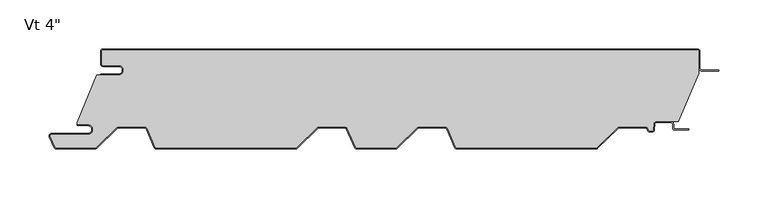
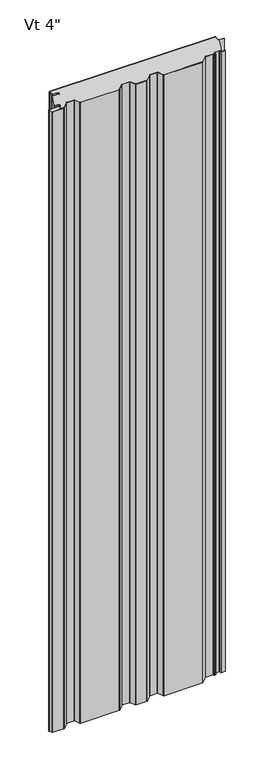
"""IFC4 building model written with IfcOpenShell, lengths in millimetres: plate geometry."""

from ifc_helpers import new_model, si_unit, point, frame_2d, origin, origin_with_axes, place, context, project, spatial, polyline, circle_curve, trimmed, segment, composite_curve, outline, extrude, source, transform, mapped, element, save


def plate_906cce98(model_context):
    return source(origin(), model_context, "Body", "SweptSolid", [
        extrude(outline(composite_curve([segment(trimmed(circle_curve(frame_2d((-285.74375, -21.4324412)), 4.96875), [point((-285.74375, -26.4011912))], [point((-285.74375, -16.4636912))], True, "CARTESIAN"), True, "CONTINUOUS"), segment(polyline([(-285.74375, -16.4636912), (-301.61875, -16.4636912)]), True, "CONTINUOUS"), segment(trimmed(circle_curve(frame_2d((-301.61875, -15.0824412)), 1.38125), [point((-301.61875, -16.4636912))], [point((-303.0, -15.0824412))], False, "CARTESIAN"), True, "CONTINUOUS"), segment(polyline([(-303.0, -15.0824412), (-303.0, -2.3824412)]), True, "CONTINUOUS"), segment(trimmed(circle_curve(frame_2d((-301.61875, -2.3824412)), 1.38125), [point((-303.0, -2.3824412))], [point((-301.61875, -1.0011912))], False, "CARTESIAN"), True, "CONTINUOUS"), segment(polyline([(-301.61875, -1.0011912), (301.63125, -1.0011912)]), True, "CONTINUOUS"), segment(trimmed(circle_curve(frame_2d((301.63125, -2.3824412)), 1.38125), [point((301.63125, -1.0011912))], [point((303.0125, -2.3824412))], False, "CARTESIAN"), True, "CONTINUOUS"), segment(polyline([(303.0125, -2.3824412), (303.0125, -24.8719682), (282.1955434, -73.6136912), (259.7683457, -73.6136912)]), True, "CONTINUOUS"), segment(trimmed(circle_curve(frame_2d((259.7683457, -76.2011912)), 2.5875), [point((259.7683457, -73.6136912))], [point((257.1843918, -76.0657719))], True, "CARTESIAN"), True, "CONTINUOUS"), segment(polyline([(257.1843918, -76.0657719), (256.8823155, -81.8297302)]), True, "CONTINUOUS"), segment(trimmed(circle_curve(frame_2d((255.5029585, -81.7574412)), 1.38125), [point((256.8823155, -81.8297302))], [point((255.5029585, -83.1386912))], False, "CARTESIAN"), True, "CONTINUOUS"), segment(polyline([(255.5029585, -83.1386912), (253.1754519, -83.1386912)]), True, "CONTINUOUS"), segment(trimmed(circle_curve(frame_2d((253.1754519, -81.7574412)), 1.38125), [point((253.1754519, -83.1386912))], [point((251.9124516, -82.3166208))], False, "CARTESIAN"), True, "CONTINUOUS"), segment(polyline([(251.9124516, -82.3166208), (251.1640306, -80.6261871)]), True, "CONTINUOUS"), segment(trimmed(circle_curve(frame_2d((248.7980481, -81.6737)), 2.5875), [point((251.1640306, -80.6261871))], [point((248.7980481, -79.0862))], True, "CARTESIAN"), True, "CONTINUOUS"), segment(polyline([(248.7980481, -79.0862), (222.2742003, -79.0862)]), True, "CONTINUOUS"), segment(trimmed(circle_curve(frame_2d((222.2742003, -81.6737)), 2.5875), [point((222.2742003, -79.0862))], [point((220.4745496, -79.8145567))], True, "CARTESIAN"), True, "CONTINUOUS"), segment(polyline([(220.4745496, -79.8145567), (199.4036462, -100.2111912)]), True, "CONTINUOUS"), segment(trimmed(circle_curve(frame_2d((198.4429631, -99.21875)), 1.38125), [point((199.4036462, -100.2111912))], [point((198.4429631, -100.6))], False, "CARTESIAN"), True, "CONTINUOUS"), segment(polyline([(198.4429631, -100.6), (57.7062557, -100.6)]), True, "CONTINUOUS"), segment(trimmed(circle_curve(frame_2d((57.7062557, -99.21875)), 1.38125), [point((57.7062557, -100.6))], [point((56.4432554, -99.7779296))], False, "CARTESIAN"), True, "CONTINUOUS"), segment(polyline([(56.4432554, -99.7779296), (47.9640306, -80.6261871)]), True, "CONTINUOUS"), segment(trimmed(circle_curve(frame_2d((45.5980481, -81.6737)), 2.5875), [point((47.9640306, -80.6261871))], [point((45.5980481, -79.0862))], True, "CARTESIAN"), True, "CONTINUOUS"), segment(polyline([(45.5980481, -79.0862), (19.0742003, -79.0862)]), True, "CONTINUOUS"), segment(trimmed(circle_curve(frame_2d((19.0742003, -81.6737)), 2.5875), [point((19.0742003, -79.0862))], [point((17.2745496, -79.8145567))], True, "CARTESIAN"), True, "CONTINUOUS"), segment(polyline([(17.2745496, -79.8145567), (-3.7963538, -100.2111912)]), True, "CONTINUOUS"), segment(trimmed(circle_curve(frame_2d((-4.7570369, -99.21875)), 1.38125), [point((-3.7963538, -100.2111912))], [point((-4.7570369, -100.6))], False, "CARTESIAN"), True, "CONTINUOUS"), segment(polyline([(-4.7570369, -100.6), (-43.8937443, -100.6)]), True, "CONTINUOUS"), segment(trimmed(circle_curve(frame_2d((-43.8937443, -99.21875)), 1.38125), [point((-43.8937443, -100.6))], [point((-45.1567446, -99.7779296))], False, "CARTESIAN"), True, "CONTINUOUS"), segment(polyline([(-45.1567446, -99.7779296), (-53.6359694, -80.6261871)]), True, "CONTINUOUS"), segment(trimmed(circle_curve(frame_2d((-56.0019519, -81.6737)), 2.5875), [point((-53.6359694, -80.6261871))], [point((-56.0019519, -79.0862))], True, "CARTESIAN"), True, "CONTINUOUS"), segment(polyline([(-56.0019519, -79.0862), (-82.5257997, -79.0862)]), True, "CONTINUOUS"), segment(trimmed(circle_curve(frame_2d((-82.5257997, -81.6737)), 2.5875), [point((-82.5257997, -79.0862))], [point((-84.3254504, -79.8145567))], True, "CARTESIAN"), True, "CONTINUOUS"), segment(polyline([(-84.3254504, -79.8145567), (-105.3963538, -100.2111912)]), True, "CONTINUOUS"), segment(trimmed(circle_curve(frame_2d((-106.3570369, -99.21875)), 1.38125), [point((-105.3963538, -100.2111912))], [point((-106.3570369, -100.6))], False, "CARTESIAN"), True, "CONTINUOUS"), segment(polyline([(-106.3570369, -100.6), (-247.0937443, -100.6)]), True, "CONTINUOUS"), segment(trimmed(circle_curve(frame_2d((-247.0937443, -99.21875)), 1.38125), [point((-247.0937443, -100.6))], [point((-248.3567446, -99.7779296))], False, "CARTESIAN"), True, "CONTINUOUS"), segment(polyline([(-248.3567446, -99.7779296), (-256.8359694, -80.6261871)]), True, "CONTINUOUS"), segment(trimmed(circle_curve(frame_2d((-259.2019519, -81.6737)), 2.5875), [point((-256.8359694, -80.6261871))], [point((-259.2019519, -79.0862))], True, "CARTESIAN"), True, "CONTINUOUS"), segment(polyline([(-259.2019519, -79.0862), (-285.7257997, -79.0862)]), True, "CONTINUOUS"), segment(trimmed(circle_curve(frame_2d((-285.7257997, -81.6737)), 2.5875), [point((-285.7257997, -79.0862))], [point((-287.5254504, -79.8145567))], True, "CARTESIAN"), True, "CONTINUOUS"), segment(polyline([(-287.5254504, -79.8145567), (-308.3876931, -100.0092077)]), True, "CONTINUOUS"), segment(trimmed(circle_curve(frame_2d((-309.8474446, -98.5012)), 2.0988), [point((-308.3876931, -100.0092077))], [point((-309.8474446, -100.6))], False, "CARTESIAN"), True, "CONTINUOUS"), segment(polyline([(-309.8474446, -100.6), (-348.6937443, -100.6)]), True, "CONTINUOUS"), segment(trimmed(circle_curve(frame_2d((-348.6937443, -99.21875)), 1.38125), [point((-348.6937443, -100.6))], [point((-349.9567446, -99.7779296))], False, "CARTESIAN"), True, "CONTINUOUS"), segment(polyline([(-349.9567446, -99.7779296), (-354.8761552, -88.6666208)]), True, "CONTINUOUS"), segment(trimmed(circle_curve(frame_2d((-353.6131549, -88.1074412)), 1.38125), [point((-354.8761552, -88.6666208))], [point((-353.6131549, -86.7261912))], False, "CARTESIAN"), True, "CONTINUOUS"), segment(polyline([(-353.6131549, -86.7261912), (-316.7, -86.7261912)]), True, "CONTINUOUS"), segment(trimmed(circle_curve(frame_2d((-316.7, -81.7574412)), 4.96875), [point((-316.7, -86.7261912))], [point((-316.7, -76.7886912))], True, "CARTESIAN"), True, "CONTINUOUS"), segment(polyline([(-316.7, -76.7886912), (-327.8125, -76.7886912), (-327.8125, -74.633822), (-307.9914112, -26.4011912), (-285.74375, -26.4011912)]), True, "CONTINUOUS")], self_intersect=False)), origin_with_axes(), (0.0, 0.0, 1.0), 2400.0),
        extrude(outline(composite_curve([segment(polyline([(-304.0, -25.4), (-285.74375, -25.4)]), True, "CONTINUOUS"), segment(trimmed(circle_curve(frame_2d((-285.74375, -21.43125)), 3.96875), [point((-285.74375, -25.4))], [point((-285.74375, -17.4625))], True, "CARTESIAN"), True, "CONTINUOUS"), segment(polyline([(-285.74375, -17.4625), (-301.61875, -17.4625)]), True, "CONTINUOUS"), segment(trimmed(circle_curve(frame_2d((-301.61875, -15.08125)), 2.38125), [point((-301.61875, -17.4625))], [point((-304.0, -15.08125))], False, "CARTESIAN"), True, "CONTINUOUS"), segment(polyline([(-304.0, -15.08125), (-304.0, -2.38125)]), True, "CONTINUOUS"), segment(trimmed(circle_curve(frame_2d((-301.61875, -2.38125)), 2.38125), [point((-304.0, -2.38125))], [point((-301.61875, 0.0))], False, "CARTESIAN"), True, "CONTINUOUS"), segment(polyline([(-301.61875, 0.0), (301.63125, 0.0)]), True, "CONTINUOUS"), segment(trimmed(circle_curve(frame_2d((301.63125, -2.38125)), 2.38125), [point((301.63125, 0.0))], [point((304.0125, -2.38125))], False, "CARTESIAN"), True, "CONTINUOUS"), segment(polyline([(304.0125, -2.38125), (304.0125, -19.446875)]), True, "CONTINUOUS"), segment(trimmed(circle_curve(frame_2d((305.6, -19.446875)), 1.5875), [point((304.0125, -19.446875))], [point((305.6, -21.034375))], True, "CARTESIAN"), True, "CONTINUOUS"), segment(polyline([(305.6, -21.034375), (323.0625, -21.034375), (323.0625, -22.034375), (305.6, -22.034375)]), True, "CONTINUOUS"), segment(trimmed(circle_curve(frame_2d((305.6, -19.446875)), 2.5875), [point((305.6, -22.034375))], [point((303.0125, -19.446875))], False, "CARTESIAN"), True, "CONTINUOUS"), segment(polyline([(303.0125, -19.446875), (303.0125, -2.38125)]), True, "CONTINUOUS"), segment(trimmed(circle_curve(frame_2d((301.63125, -2.38125)), 1.38125), [point((303.0125, -2.38125))], [point((301.63125, -1.0))], True, "CARTESIAN"), True, "CONTINUOUS"), segment(polyline([(301.63125, -1.0), (-301.61875, -1.0)]), True, "CONTINUOUS"), segment(trimmed(circle_curve(frame_2d((-301.61875, -2.38125)), 1.38125), [point((-301.61875, -1.0))], [point((-303.0, -2.38125))], True, "CARTESIAN"), True, "CONTINUOUS"), segment(polyline([(-303.0, -2.38125), (-303.0, -15.08125)]), True, "CONTINUOUS"), segment(trimmed(circle_curve(frame_2d((-301.61875, -15.08125)), 1.38125), [point((-303.0, -15.08125))], [point((-301.61875, -16.4625))], True, "CARTESIAN"), True, "CONTINUOUS"), segment(polyline([(-301.61875, -16.4625), (-285.74375, -16.4625)]), True, "CONTINUOUS"), segment(trimmed(circle_curve(frame_2d((-285.74375, -21.43125)), 4.96875), [point((-285.74375, -16.4625))], [point((-285.74375, -26.4))], False, "CARTESIAN"), True, "CONTINUOUS"), segment(polyline([(-285.74375, -26.4), (-304.0, -26.4), (-304.0, -25.4)]), True, "CONTINUOUS")], self_intersect=False)), origin_with_axes(), (0.0, 0.0, 1.0), 2400.0),
        extrude(outline(composite_curve([segment(trimmed(circle_curve(frame_2d((-316.7, -81.7574412)), 3.96875), [point((-316.7, -85.7261912))], [point((-316.7, -77.7886912))], True, "CARTESIAN"), True, "CONTINUOUS"), segment(polyline([(-316.7, -77.7886912), (-327.8125, -77.7886912), (-327.8125, -76.7886912), (-316.7, -76.7886912)]), True, "CONTINUOUS"), segment(trimmed(circle_curve(frame_2d((-316.7, -81.7574412)), 4.96875), [point((-316.7, -76.7886912))], [point((-316.7, -86.7261912))], False, "CARTESIAN"), True, "CONTINUOUS"), segment(polyline([(-316.7, -86.7261912), (-353.6131549, -86.7261912)]), True, "CONTINUOUS"), segment(trimmed(circle_curve(frame_2d((-353.6131549, -88.1074412)), 1.38125), [point((-353.6131549, -86.7261912))], [point((-354.8761552, -88.6666208))], True, "CARTESIAN"), True, "CONTINUOUS"), segment(polyline([(-354.8761552, -88.6666208), (-349.9567446, -99.7779296)]), True, "CONTINUOUS"), segment(trimmed(circle_curve(frame_2d((-348.6937443, -99.21875)), 1.38125), [point((-349.9567446, -99.7779296))], [point((-348.6937443, -100.6))], True, "CARTESIAN"), True, "CONTINUOUS"), segment(polyline([(-348.6937443, -100.6), (-309.8474446, -100.6)]), True, "CONTINUOUS"), segment(trimmed(circle_curve(frame_2d((-309.8474446, -98.5012)), 2.0988), [point((-309.8474446, -100.6))], [point((-308.3876931, -100.0092077))], True, "CARTESIAN"), True, "CONTINUOUS"), segment(polyline([(-308.3876931, -100.0092077), (-287.5254504, -79.8145567)]), True, "CONTINUOUS"), segment(trimmed(circle_curve(frame_2d((-285.7257997, -81.6737)), 2.5875), [point((-287.5254504, -79.8145567))], [point((-285.7257997, -79.0862))], False, "CARTESIAN"), True, "CONTINUOUS"), segment(polyline([(-285.7257997, -79.0862), (-259.2019519, -79.0862)]), True, "CONTINUOUS"), segment(trimmed(circle_curve(frame_2d((-259.2019519, -81.6737)), 2.5875), [point((-259.2019519, -79.0862))], [point((-256.8359694, -80.6261871))], False, "CARTESIAN"), True, "CONTINUOUS"), segment(polyline([(-256.8359694, -80.6261871), (-248.3567446, -99.7779296)]), True, "CONTINUOUS"), segment(trimmed(circle_curve(frame_2d((-247.0937443, -99.21875)), 1.38125), [point((-248.3567446, -99.7779296))], [point((-247.0937443, -100.6))], True, "CARTESIAN"), True, "CONTINUOUS"), segment(polyline([(-247.0937443, -100.6), (-106.3570369, -100.6)]), True, "CONTINUOUS"), segment(trimmed(circle_curve(frame_2d((-106.3570369, -99.21875)), 1.38125), [point((-106.3570369, -100.6))], [point((-105.3963538, -100.2111912))], True, "CARTESIAN"), True, "CONTINUOUS"), segment(polyline([(-105.3963538, -100.2111912), (-84.3254504, -79.8145567)]), True, "CONTINUOUS"), segment(trimmed(circle_curve(frame_2d((-82.5257997, -81.6737)), 2.5875), [point((-84.3254504, -79.8145567))], [point((-82.5257997, -79.0862))], False, "CARTESIAN"), True, "CONTINUOUS"), segment(polyline([(-82.5257997, -79.0862), (-56.0019519, -79.0862)]), True, "CONTINUOUS"), segment(trimmed(circle_curve(frame_2d((-56.0019519, -81.6737)), 2.5875), [point((-56.0019519, -79.0862))], [point((-53.6359694, -80.6261871))], False, "CARTESIAN"), True, "CONTINUOUS"), segment(polyline([(-53.6359694, -80.6261871), (-45.1567446, -99.7779296)]), True, "CONTINUOUS"), segment(trimmed(circle_curve(frame_2d((-43.8937443, -99.21875)), 1.38125), [point((-45.1567446, -99.7779296))], [point((-43.8937443, -100.6))], True, "CARTESIAN"), True, "CONTINUOUS"), segment(polyline([(-43.8937443, -100.6), (-4.7570369, -100.6)]), True, "CONTINUOUS"), segment(trimmed(circle_curve(frame_2d((-4.7570369, -99.21875)), 1.38125), [point((-4.7570369, -100.6))], [point((-3.7963538, -100.2111912))], True, "CARTESIAN"), True, "CONTINUOUS"), segment(polyline([(-3.7963538, -100.2111912), (17.2745496, -79.8145567)]), True, "CONTINUOUS"), segment(trimmed(circle_curve(frame_2d((19.0742003, -81.6737)), 2.5875), [point((17.2745496, -79.8145567))], [point((19.0742003, -79.0862))], False, "CARTESIAN"), True, "CONTINUOUS"), segment(polyline([(19.0742003, -79.0862), (45.5980481, -79.0862)]), True, "CONTINUOUS"), segment(trimmed(circle_curve(frame_2d((45.5980481, -81.6737)), 2.5875), [point((45.5980481, -79.0862))], [point((47.9640306, -80.6261871))], False, "CARTESIAN"), True, "CONTINUOUS"), segment(polyline([(47.9640306, -80.6261871), (56.4432554, -99.7779296)]), True, "CONTINUOUS"), segment(trimmed(circle_curve(frame_2d((57.7062557, -99.21875)), 1.38125), [point((56.4432554, -99.7779296))], [point((57.7062557, -100.6))], True, "CARTESIAN"), True, "CONTINUOUS"), segment(polyline([(57.7062557, -100.6), (198.4429631, -100.6)]), True, "CONTINUOUS"), segment(trimmed(circle_curve(frame_2d((198.4429631, -99.21875)), 1.38125), [point((198.4429631, -100.6))], [point((199.4036462, -100.2111912))], True, "CARTESIAN"), True, "CONTINUOUS"), segment(polyline([(199.4036462, -100.2111912), (220.4745496, -79.8145567)]), True, "CONTINUOUS"), segment(trimmed(circle_curve(frame_2d((222.2742003, -81.6737)), 2.5875), [point((220.4745496, -79.8145567))], [point((222.2742003, -79.0862))], False, "CARTESIAN"), True, "CONTINUOUS"), segment(polyline([(222.2742003, -79.0862), (248.7980481, -79.0862)]), True, "CONTINUOUS"), segment(trimmed(circle_curve(frame_2d((248.7980481, -81.6737)), 2.5875), [point((248.7980481, -79.0862))], [point((251.1640306, -80.6261871))], False, "CARTESIAN"), True, "CONTINUOUS"), segment(polyline([(251.1640306, -80.6261871), (251.9124516, -82.3166208)]), True, "CONTINUOUS"), segment(trimmed(circle_curve(frame_2d((253.1754519, -81.7574412)), 1.38125), [point((251.9124516, -82.3166208))], [point((253.1754519, -83.1386912))], True, "CARTESIAN"), True, "CONTINUOUS"), segment(polyline([(253.1754519, -83.1386912), (255.5029585, -83.1386912)]), True, "CONTINUOUS"), segment(trimmed(circle_curve(frame_2d((255.5029585, -81.7574412)), 1.38125), [point((255.5029585, -83.1386912))], [point((256.8823155, -81.8297302))], True, "CARTESIAN"), True, "CONTINUOUS"), segment(polyline([(256.8823155, -81.8297302), (257.1843918, -76.0657719)]), True, "CONTINUOUS"), segment(trimmed(circle_curve(frame_2d((259.7683457, -76.2011912)), 2.5875), [point((257.1843918, -76.0657719))], [point((259.7683457, -73.6136912))], False, "CARTESIAN"), True, "CONTINUOUS"), segment(polyline([(259.7683457, -73.6136912), (274.64375, -73.6136912)]), True, "CONTINUOUS"), segment(trimmed(circle_curve(frame_2d((274.64375, -76.2011912)), 2.5875), [point((274.64375, -73.6136912))], [point((277.23125, -76.2011912))], False, "CARTESIAN"), True, "CONTINUOUS"), segment(polyline([(277.23125, -76.2011912), (277.23125, -79.7730662)]), True, "CONTINUOUS"), segment(trimmed(circle_curve(frame_2d((278.6125, -79.7730662)), 1.38125), [point((277.23125, -79.7730662))], [point((278.6125, -81.1543162))], True, "CARTESIAN"), True, "CONTINUOUS"), segment(polyline([(278.6125, -81.1543162), (292.9, -81.1543162), (292.9, -82.1543162), (278.6125, -82.1543162)]), True, "CONTINUOUS"), segment(trimmed(circle_curve(frame_2d((278.6125, -79.7730662)), 2.38125), [point((278.6125, -82.1543162))], [point((276.23125, -79.7730662))], False, "CARTESIAN"), True, "CONTINUOUS"), segment(polyline([(276.23125, -79.7730662), (276.23125, -76.2011912)]), True, "CONTINUOUS"), segment(trimmed(circle_curve(frame_2d((274.64375, -76.2011912)), 1.5875), [point((276.23125, -76.2011912))], [point((274.64375, -74.6136912))], True, "CARTESIAN"), True, "CONTINUOUS"), segment(polyline([(274.64375, -74.6136912), (259.7683457, -74.6136912)]), True, "CONTINUOUS"), segment(trimmed(circle_curve(frame_2d((259.7683457, -76.2011912)), 1.5875), [point((259.7683457, -74.6136912))], [point((258.1830213, -76.1181078))], True, "CARTESIAN"), True, "CONTINUOUS"), segment(polyline([(258.1830213, -76.1181078), (257.8809451, -81.8820662)]), True, "CONTINUOUS"), segment(trimmed(circle_curve(frame_2d((255.5029585, -81.7574412)), 2.38125), [point((257.8809451, -81.8820662))], [point((255.5029585, -84.1386912))], False, "CARTESIAN"), True, "CONTINUOUS"), segment(polyline([(255.5029585, -84.1386912), (253.1754519, -84.1386912)]), True, "CONTINUOUS"), segment(trimmed(circle_curve(frame_2d((253.1754519, -81.7574412)), 2.38125), [point((253.1754519, -84.1386912))], [point((250.9980623, -82.7214567))], False, "CARTESIAN"), True, "CONTINUOUS"), segment(polyline([(250.9980623, -82.7214567), (250.2496412, -81.031023)]), True, "CONTINUOUS"), segment(trimmed(circle_curve(frame_2d((248.7980481, -81.6737)), 1.5875), [point((250.2496412, -81.031023))], [point((248.7980481, -80.0862))], True, "CARTESIAN"), True, "CONTINUOUS"), segment(polyline([(248.7980481, -80.0862), (222.2742003, -80.0862)]), True, "CONTINUOUS"), segment(trimmed(circle_curve(frame_2d((222.2742003, -81.6737)), 1.5875), [point((222.2742003, -80.0862))], [point((221.1700668, -80.5330662))], True, "CARTESIAN"), True, "CONTINUOUS"), segment(polyline([(221.1700668, -80.5330662), (200.0991634, -100.9297007)]), True, "CONTINUOUS"), segment(trimmed(circle_curve(frame_2d((198.4429631, -99.21875)), 2.38125), [point((200.0991634, -100.9297007))], [point((198.4429631, -101.6))], False, "CARTESIAN"), True, "CONTINUOUS"), segment(polyline([(198.4429631, -101.6), (57.7062557, -101.6)]), True, "CONTINUOUS"), segment(trimmed(circle_curve(frame_2d((57.7062557, -99.21875)), 2.38125), [point((57.7062557, -101.6))], [point((55.5288661, -100.1827655))], False, "CARTESIAN"), True, "CONTINUOUS"), segment(polyline([(55.5288661, -100.1827655), (47.0496412, -81.031023)]), True, "CONTINUOUS"), segment(trimmed(circle_curve(frame_2d((45.5980481, -81.6737)), 1.5875), [point((47.0496412, -81.031023))], [point((45.5980481, -80.0862))], True, "CARTESIAN"), True, "CONTINUOUS"), segment(polyline([(45.5980481, -80.0862), (19.0742003, -80.0862)]), True, "CONTINUOUS"), segment(trimmed(circle_curve(frame_2d((19.0742003, -81.6737)), 1.5875), [point((19.0742003, -80.0862))], [point((17.9700668, -80.5330662))], True, "CARTESIAN"), True, "CONTINUOUS"), segment(polyline([(17.9700668, -80.5330662), (-3.1008366, -100.9297007)]), True, "CONTINUOUS"), segment(trimmed(circle_curve(frame_2d((-4.7570369, -99.21875)), 2.38125), [point((-3.1008366, -100.9297007))], [point((-4.7570369, -101.6))], False, "CARTESIAN"), True, "CONTINUOUS"), segment(polyline([(-4.7570369, -101.6), (-43.8937443, -101.6)]), True, "CONTINUOUS"), segment(trimmed(circle_curve(frame_2d((-43.8937443, -99.21875)), 2.38125), [point((-43.8937443, -101.6))], [point((-46.0711339, -100.1827655))], False, "CARTESIAN"), True, "CONTINUOUS"), segment(polyline([(-46.0711339, -100.1827655), (-54.5503588, -81.031023)]), True, "CONTINUOUS"), segment(trimmed(circle_curve(frame_2d((-56.0019519, -81.6737)), 1.5875), [point((-54.5503588, -81.031023))], [point((-56.0019519, -80.0862))], True, "CARTESIAN"), True, "CONTINUOUS"), segment(polyline([(-56.0019519, -80.0862), (-82.5257997, -80.0862)]), True, "CONTINUOUS"), segment(trimmed(circle_curve(frame_2d((-82.5257997, -81.6737)), 1.5875), [point((-82.5257997, -80.0862))], [point((-83.6299332, -80.5330662))], True, "CARTESIAN"), True, "CONTINUOUS"), segment(polyline([(-83.6299332, -80.5330662), (-104.7008366, -100.9297007)]), True, "CONTINUOUS"), segment(trimmed(circle_curve(frame_2d((-106.3570369, -99.21875)), 2.38125), [point((-104.7008366, -100.9297007))], [point((-106.3570369, -101.6))], False, "CARTESIAN"), True, "CONTINUOUS"), segment(polyline([(-106.3570369, -101.6), (-247.0937443, -101.6)]), True, "CONTINUOUS"), segment(trimmed(circle_curve(frame_2d((-247.0937443, -99.21875)), 2.38125), [point((-247.0937443, -101.6))], [point((-249.2711339, -100.1827655))], False, "CARTESIAN"), True, "CONTINUOUS"), segment(polyline([(-249.2711339, -100.1827655), (-257.7503588, -81.031023)]), True, "CONTINUOUS"), segment(trimmed(circle_curve(frame_2d((-259.2019519, -81.6737)), 1.5875), [point((-257.7503588, -81.031023))], [point((-259.2019519, -80.0862))], True, "CARTESIAN"), True, "CONTINUOUS"), segment(polyline([(-259.2019519, -80.0862), (-285.7257997, -80.0862)]), True, "CONTINUOUS"), segment(trimmed(circle_curve(frame_2d((-285.7257997, -81.6737)), 1.5875), [point((-285.7257997, -80.0862))], [point((-286.8299332, -80.5330662))], True, "CARTESIAN"), True, "CONTINUOUS"), segment(polyline([(-286.8299332, -80.5330662), (-307.6921759, -100.7277172)]), True, "CONTINUOUS"), segment(trimmed(circle_curve(frame_2d((-309.8474446, -98.5012)), 3.0988), [point((-307.6921759, -100.7277172))], [point((-309.8474446, -101.6))], False, "CARTESIAN"), True, "CONTINUOUS"), segment(polyline([(-309.8474446, -101.6), (-348.6937443, -101.6)]), True, "CONTINUOUS"), segment(trimmed(circle_curve(frame_2d((-348.6937443, -99.21875)), 2.38125), [point((-348.6937443, -101.6))], [point((-350.8711339, -100.1827655))], False, "CARTESIAN"), True, "CONTINUOUS"), segment(polyline([(-350.8711339, -100.1827655), (-355.7905446, -89.0714567)]), True, "CONTINUOUS"), segment(trimmed(circle_curve(frame_2d((-353.6131549, -88.1074412)), 2.38125), [point((-355.7905446, -89.0714567))], [point((-353.6131549, -85.7261912))], False, "CARTESIAN"), True, "CONTINUOUS"), segment(polyline([(-353.6131549, -85.7261912), (-316.7, -85.7261912)]), True, "CONTINUOUS")], self_intersect=False)), origin_with_axes(), (0.0, 0.0, 1.0), 2400.0),
    ])


if __name__ == "__main__":
    model = new_model("IFC4")
    model_context = context("Model", 3, world=origin())
    ifc_project = project(units=[si_unit("LENGTHUNIT", "METRE", prefix="MILLI")], contexts=[model_context])
    site = spatial("IfcSite", under=ifc_project)
    building = spatial("IfcBuilding", under=site)
    placement = place(None, origin())
    plate_shape = plate_906cce98(model_context)
    element("IfcPlate", 1, ObjectType="KIP-24-DWR-R19-CP-Vt-A : Vt 4\"", at=placement, inside=building, context=model_context, shape_type="MappedRepresentation", body=[
        mapped(plate_shape, transform((0.0, 0.0, 0.0), x_axis=(1.0, 0.0, 0.0), y_axis=(0.0, 1.0, 0.0), z_axis=(0.0, 0.0, 1.0))),
    ])
    save(model, "model.ifc")
